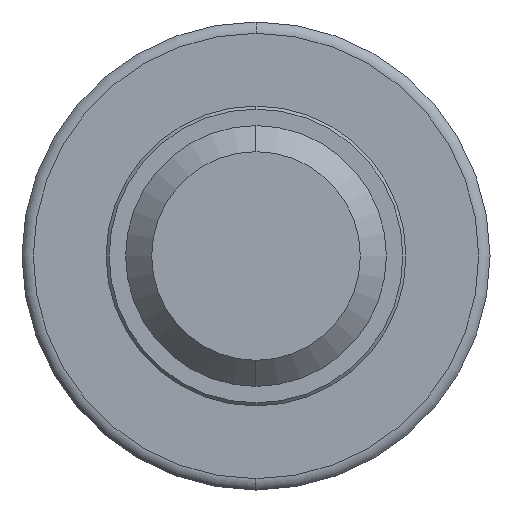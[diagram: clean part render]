
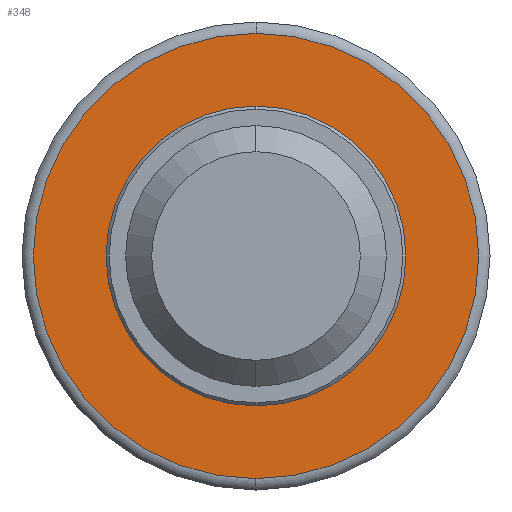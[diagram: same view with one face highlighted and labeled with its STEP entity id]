
A CAD part, left-side view. The second image highlights one B-rep face of the part: STEP entity #348.
In plain terms, the highlighted planar face has unit normal (-1, 0, 0).
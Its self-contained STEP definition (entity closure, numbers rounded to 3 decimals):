
#5 = EDGE_CURVE ( 'NONE', #366, #127, #194, .T. ) ;
#16 = EDGE_LOOP ( 'NONE', ( #255, #527 ) ) ;
#17 = VERTEX_POINT ( 'NONE', #618 ) ;
#33 = ORIENTED_EDGE ( 'NONE', *, *, #556, .F. ) ;
#39 = CIRCLE ( 'NONE', #270, 51.25 ) ;
#92 = DIRECTION ( 'NONE',  ( -1., 0., 0. ) ) ;
#95 = EDGE_CURVE ( 'NONE', #229, #17, #609, .T. ) ;
#127 = VERTEX_POINT ( 'NONE', #276 ) ;
#140 = ORIENTED_EDGE ( 'NONE', *, *, #5, .F. ) ;
#143 = FACE_BOUND ( 'NONE', #147, .T. ) ;
#147 = EDGE_LOOP ( 'NONE', ( #33, #140 ) ) ;
#194 = CIRCLE ( 'NONE', #526, 33.8 ) ;
#225 = AXIS2_PLACEMENT_3D ( 'NONE', #414, #363, #525 ) ;
#229 = VERTEX_POINT ( 'NONE', #284 ) ;
#234 = AXIS2_PLACEMENT_3D ( 'NONE', #275, #660, #327 ) ;
#237 = CARTESIAN_POINT ( 'NONE',  ( 19., 0., 0. ) ) ;
#255 = ORIENTED_EDGE ( 'NONE', *, *, #579, .T. ) ;
#270 = AXIS2_PLACEMENT_3D ( 'NONE', #438, #92, #501 ) ;
#275 = CARTESIAN_POINT ( 'NONE',  ( 19., 0., 0. ) ) ;
#276 = CARTESIAN_POINT ( 'NONE',  ( 19., 0., 33.8 ) ) ;
#284 = CARTESIAN_POINT ( 'NONE',  ( 19., 0., -51.25 ) ) ;
#307 = CARTESIAN_POINT ( 'NONE',  ( 19., 0., -33.8 ) ) ;
#327 = DIRECTION ( 'NONE',  ( 0., 0., 1. ) ) ;
#348 = ADVANCED_FACE ( 'NONE', ( #487, #143 ), #471, .T. ) ;
#363 = DIRECTION ( 'NONE',  ( -1., 0., 0. ) ) ;
#366 = VERTEX_POINT ( 'NONE', #307 ) ;
#381 = DIRECTION ( 'NONE',  ( -1., 0., 0. ) ) ;
#414 = CARTESIAN_POINT ( 'NONE',  ( 19., 33.8, 0. ) ) ;
#438 = CARTESIAN_POINT ( 'NONE',  ( 19., 0., 0. ) ) ;
#469 = CIRCLE ( 'NONE', #234, 33.8 ) ;
#471 = PLANE ( 'NONE',  #225 ) ;
#487 = FACE_OUTER_BOUND ( 'NONE', #16, .T. ) ;
#501 = DIRECTION ( 'NONE',  ( 0., 0., 1. ) ) ;
#525 = DIRECTION ( 'NONE',  ( 0., 0., 1. ) ) ;
#526 = AXIS2_PLACEMENT_3D ( 'NONE', #237, #567, #589 ) ;
#527 = ORIENTED_EDGE ( 'NONE', *, *, #95, .T. ) ;
#541 = CARTESIAN_POINT ( 'NONE',  ( 19., 0., 0. ) ) ;
#556 = EDGE_CURVE ( 'NONE', #127, #366, #469, .T. ) ;
#567 = DIRECTION ( 'NONE',  ( -1., 0., 0. ) ) ;
#579 = EDGE_CURVE ( 'NONE', #17, #229, #39, .T. ) ;
#589 = DIRECTION ( 'NONE',  ( 0., 0., 1. ) ) ;
#608 = DIRECTION ( 'NONE',  ( 0., 0., 1. ) ) ;
#609 = CIRCLE ( 'NONE', #713, 51.25 ) ;
#618 = CARTESIAN_POINT ( 'NONE',  ( 19., 0., 51.25 ) ) ;
#660 = DIRECTION ( 'NONE',  ( -1., 0., 0. ) ) ;
#713 = AXIS2_PLACEMENT_3D ( 'NONE', #541, #381, #608 ) ;
